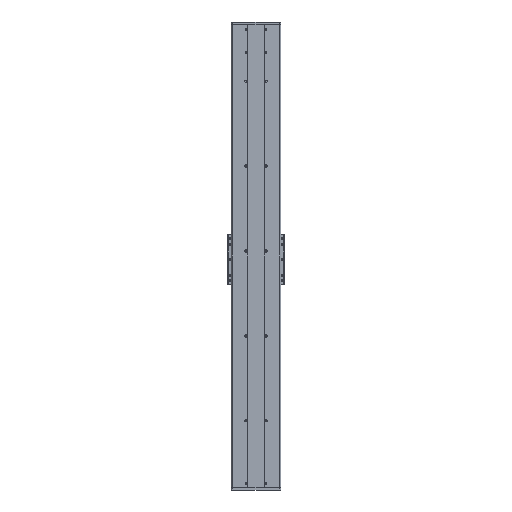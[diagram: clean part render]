
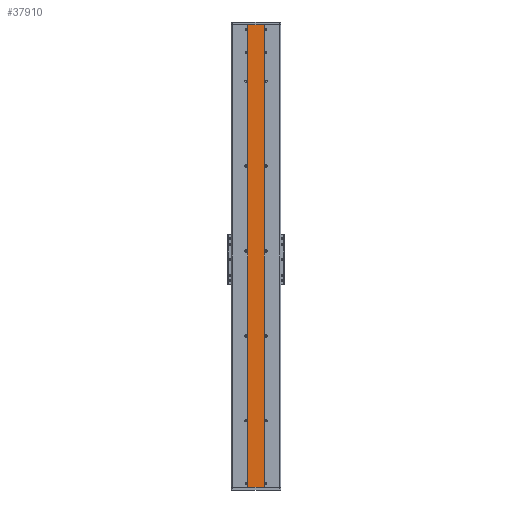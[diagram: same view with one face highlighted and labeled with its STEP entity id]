
A CAD part, front view. The second image highlights one B-rep face of the part: STEP entity #37910.
In plain terms, the highlighted planar face has unit normal (0, -1, 0).
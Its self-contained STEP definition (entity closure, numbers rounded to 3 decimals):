
#5920 = VECTOR ( 'NONE', #27574, 1000. ) ;
#5944 = EDGE_CURVE ( 'NONE', #19369, #25567, #34168, .T. ) ;
#6428 = EDGE_CURVE ( 'NONE', #25567, #42055, #27028, .T. ) ;
#6560 = ORIENTED_EDGE ( 'NONE', *, *, #5944, .F. ) ;
#8546 = PLANE ( 'NONE',  #26048 ) ;
#8690 = FACE_OUTER_BOUND ( 'NONE', #18623, .T. ) ;
#9586 = ORIENTED_EDGE ( 'NONE', *, *, #14178, .T. ) ;
#10969 = VECTOR ( 'NONE', #24951, 1000. ) ;
#12258 = CARTESIAN_POINT ( 'NONE',  ( 58.27, -85.314, 1635. ) ) ;
#14178 = EDGE_CURVE ( 'NONE', #28076, #42055, #15176, .T. ) ;
#15176 = LINE ( 'NONE', #24061, #5920 ) ;
#15244 = DIRECTION ( 'NONE',  ( -1., 0., 0. ) ) ;
#15558 = CARTESIAN_POINT ( 'NONE',  ( 1.27, -85.314, -245. ) ) ;
#15580 = VECTOR ( 'NONE', #15244, 1000. ) ;
#18623 = EDGE_LOOP ( 'NONE', ( #20051, #9586, #37745, #6560 ) ) ;
#18718 = CARTESIAN_POINT ( 'NONE',  ( 1.27, -85.314, -245. ) ) ;
#19073 = DIRECTION ( 'NONE',  ( 0., 0., 1. ) ) ;
#19369 = VERTEX_POINT ( 'NONE', #33659 ) ;
#19714 = EDGE_CURVE ( 'NONE', #19369, #28076, #20266, .T. ) ;
#20051 = ORIENTED_EDGE ( 'NONE', *, *, #19714, .T. ) ;
#20266 = LINE ( 'NONE', #28431, #10969 ) ;
#24061 = CARTESIAN_POINT ( 'NONE',  ( 1.27, -85.314, 1635. ) ) ;
#24951 = DIRECTION ( 'NONE',  ( 0., 0., 1. ) ) ;
#25567 = VERTEX_POINT ( 'NONE', #42664 ) ;
#26048 = AXIS2_PLACEMENT_3D ( 'NONE', #15558, #40040, #19073 ) ;
#27028 = LINE ( 'NONE', #18718, #34125 ) ;
#27574 = DIRECTION ( 'NONE',  ( -1., 0., 0. ) ) ;
#28076 = VERTEX_POINT ( 'NONE', #12258 ) ;
#28431 = CARTESIAN_POINT ( 'NONE',  ( 58.27, -85.314, -245. ) ) ;
#29102 = DIRECTION ( 'NONE',  ( 0., 0., 1. ) ) ;
#29304 = CARTESIAN_POINT ( 'NONE',  ( 0., -85.314, 0. ) ) ;
#33659 = CARTESIAN_POINT ( 'NONE',  ( 58.27, -85.314, 0. ) ) ;
#34002 = CARTESIAN_POINT ( 'NONE',  ( 1.27, -85.314, 1635. ) ) ;
#34125 = VECTOR ( 'NONE', #29102, 1000. ) ;
#34168 = LINE ( 'NONE', #29304, #15580 ) ;
#37745 = ORIENTED_EDGE ( 'NONE', *, *, #6428, .F. ) ;
#37910 = ADVANCED_FACE ( 'NONE', ( #8690 ), #8546, .F. ) ;
#40040 = DIRECTION ( 'NONE',  ( 0., 1., 0. ) ) ;
#42055 = VERTEX_POINT ( 'NONE', #34002 ) ;
#42664 = CARTESIAN_POINT ( 'NONE',  ( 1.27, -85.314, 0. ) ) ;
